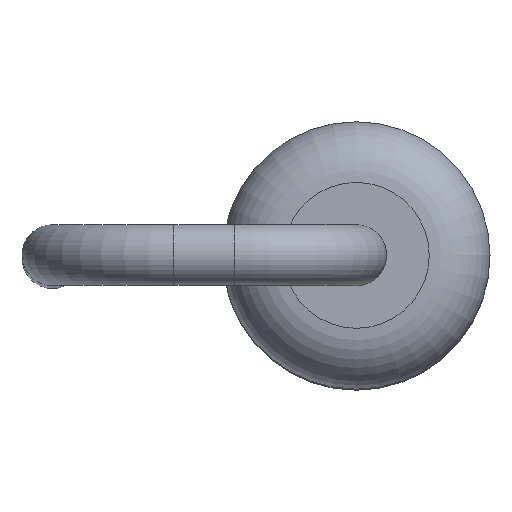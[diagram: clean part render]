
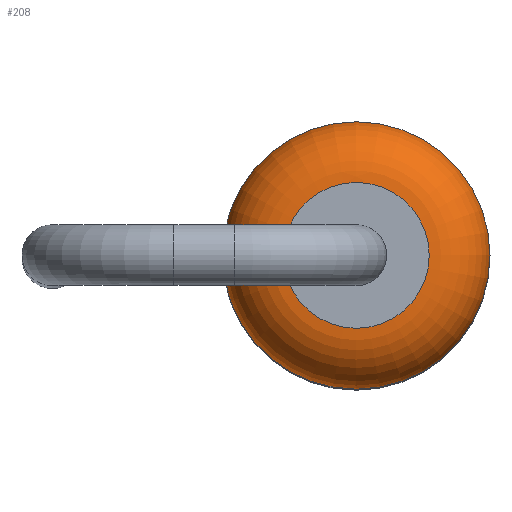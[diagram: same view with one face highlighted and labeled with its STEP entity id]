
A CAD part, top view. The second image highlights one B-rep face of the part: STEP entity #208.
In plain terms, the highlighted toroidal (fillet/blend) face has major radius 0.6 mm and minor radius 0.5 mm.
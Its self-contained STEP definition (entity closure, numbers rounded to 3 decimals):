
#208=ADVANCED_FACE('',(#377,#379),#381,.T.);
#377=FACE_OUTER_BOUND('',#378,.T.);
#378=EDGE_LOOP('',(#468));
#379=FACE_OUTER_BOUND('',#380,.T.);
#380=EDGE_LOOP('',(#469));
#381=TOROIDAL_SURFACE('',#382,0.6,0.5);
#382=AXIS2_PLACEMENT_3D('',#383,#384,#385);
#383=CARTESIAN_POINT('',(0.,0.,2.5));
#384=DIRECTION('',(0.,0.,1.));
#385=DIRECTION('',(1.,0.,0.));
#468=ORIENTED_EDGE('',*,*,#493,.T.);
#469=ORIENTED_EDGE('',*,*,#494,.F.);
#493=EDGE_CURVE('',#521,#521,#522,.T.);
#494=EDGE_CURVE('',#523,#523,#524,.T.);
#521=VERTEX_POINT('',#587);
#522=CIRCLE('',#588,1.1);
#523=VERTEX_POINT('',#592);
#524=CIRCLE('',#593,0.6);
#587=CARTESIAN_POINT('',(1.1,0.,2.5));
#588=AXIS2_PLACEMENT_3D('',#589,#590,#591);
#589=CARTESIAN_POINT('',(0.,0.,2.5));
#590=DIRECTION('',(0.,0.,1.));
#591=DIRECTION('',(1.,0.,0.));
#592=CARTESIAN_POINT('',(0.6,0.,3.));
#593=AXIS2_PLACEMENT_3D('',#594,#595,#596);
#594=CARTESIAN_POINT('',(0.,0.,3.));
#595=DIRECTION('',(0.,0.,1.));
#596=DIRECTION('',(1.,0.,0.));
